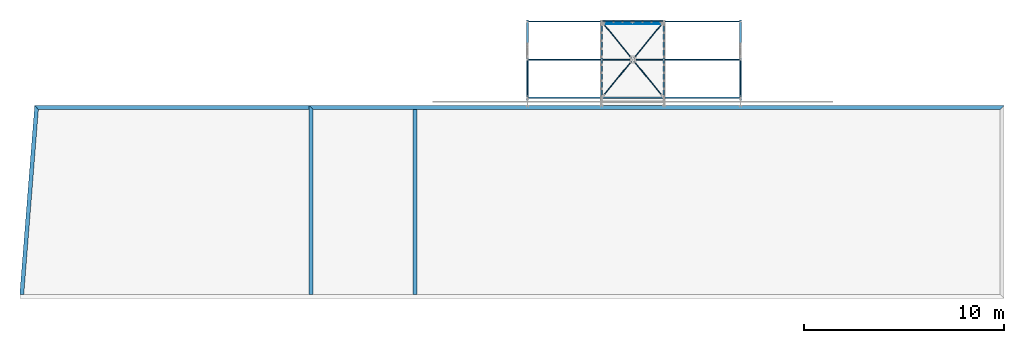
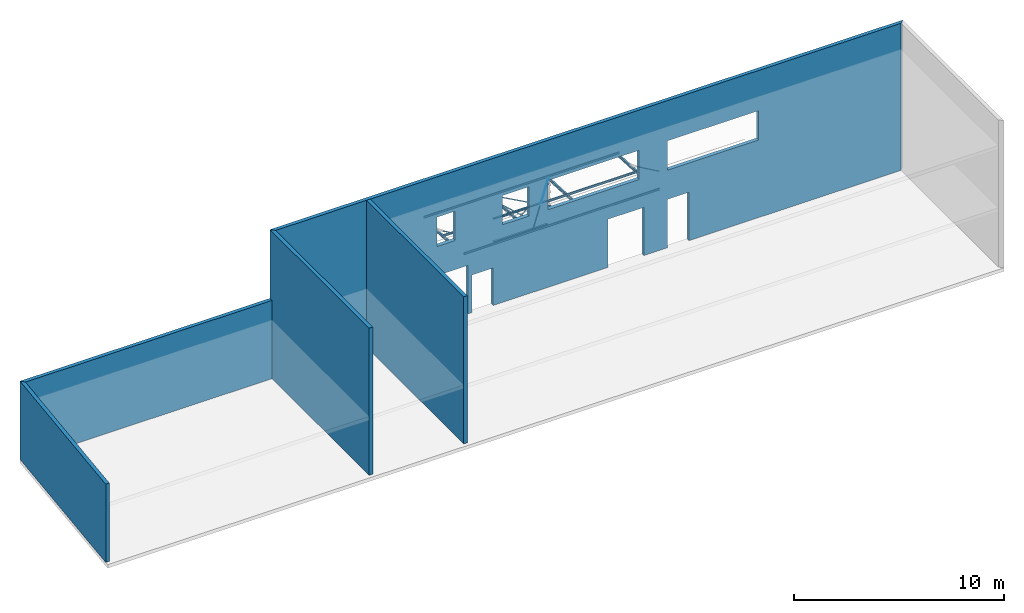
# One storey, part 2 of 10: 18 beams, 4 members, 22 elements without a shape of their own.
"""IFC2X3 building model written with IfcOpenShell, lengths in millimetres."""

import ifcopenshell
import ifcopenshell.guid

model = None  # the IFC model being written
_history = None  # IfcOwnerHistory: only IFC2X3 demands one
_inside = {}  # id of a spatial element -> (the spatial element, [elements in it])
_under = {}  # id of a project, library or spatial element -> (it, [spatial elements below it])
_declared = {}  # id of a project -> (the project, [libraries it declares])
_typed = {}  # id of a type object -> (the type object, [elements of that type])
_made_of = {}  # id of a material, layer set ... -> (it, [elements and type objects made of it])


def new_model(schema):
    """Start an empty IFC model of exactly this schema.

    Asked for "IFC4X3", IfcOpenShell would pick the latest addendum, in which some entities
    have other attributes; the version numbers below select the first issue.
    IFC2X3 requires an IfcOwnerHistory on every rooted entity: one is made here for all.
    """
    global model, _history
    if schema == "IFC4X3":
        model = ifcopenshell.file(schema_version=(4, 3, 0, 0))
    else:
        model = ifcopenshell.file(schema=schema)
    _inside.clear()
    _under.clear()
    _declared.clear()
    _typed.clear()
    _made_of.clear()
    _history = None
    if model.schema == "IFC2X3":
        org = make("IfcOrganization", Name="unknown")
        user = make(
            "IfcPersonAndOrganization",
            ThePerson=make("IfcPerson", FamilyName="unknown"),
            TheOrganization=org,
        )
        app = make(
            "IfcApplication",
            ApplicationDeveloper=org,
            Version="unknown",
            ApplicationFullName="unknown",
            ApplicationIdentifier="unknown",
        )
        _history = make(
            "IfcOwnerHistory",
            OwningUser=user,
            OwningApplication=app,
            ChangeAction="ADDED",
            CreationDate=0,
        )
    return model


def make(cls, **values):
    """One entity of the class cls with the attributes given. An attribute that is None is left unset."""
    return model.create_entity(
        cls, **{name: value for name, value in values.items() if value is not None}
    )


def rooted(cls, **values):
    """An entity with a GlobalId (a new one), such as an element, a storey or a relation."""
    return make(cls, GlobalId=ifcopenshell.guid.new(), OwnerHistory=_history, **values)


def si_unit(unit_type, name, prefix=None):
    """IfcSIUnit, for example si_unit("LENGTHUNIT", "METRE", prefix="MILLI")."""
    return make("IfcSIUnit", UnitType=unit_type, Prefix=prefix, Name=name)


def assignment(units):
    """IfcUnitAssignment: the units of a project."""
    return None if units is None else make("IfcUnitAssignment", Units=units)


def point(xyz):
    """IfcCartesianPoint."""
    return None if xyz is None else make("IfcCartesianPoint", Coordinates=xyz)


def direction(xyz):
    """IfcDirection."""
    return None if xyz is None else make("IfcDirection", DirectionRatios=xyz)


def frame(location, z_axis=None, x_axis=None):
    """IfcAxis2Placement3D, a coordinate frame: its origin and axes. An axis left out is left unset."""
    return make(
        "IfcAxis2Placement3D",
        Location=point(location),
        Axis=direction(z_axis),
        RefDirection=direction(x_axis),
    )


def frame_2d(location, x_axis=None):
    """IfcAxis2Placement2D, a coordinate frame in the plane: its origin and x axis."""
    return make(
        "IfcAxis2Placement2D", Location=point(location), RefDirection=direction(x_axis)
    )


def origin_with_axes():
    """The frame at (0, 0, 0) with the z axis (0, 0, 1) and the x axis (1, 0, 0) written out."""
    return frame((0.0, 0.0, 0.0), z_axis=(0.0, 0.0, 1.0), x_axis=(1.0, 0.0, 0.0))


def origin_2d_with_axis():
    """The frame at (0, 0) in the plane with the x axis (1, 0) written out."""
    return frame_2d((0.0, 0.0), x_axis=(1.0, 0.0))


def place(relative_to, where):
    """IfcLocalPlacement: puts the frame where relative to a parent placement (None: the world)."""
    return make(
        "IfcLocalPlacement", PlacementRelTo=relative_to, RelativePlacement=where
    )


def context(
    kind, dimensions, precision=None, world=None, true_north=None, identifier=None
):
    """IfcGeometricRepresentationContext, for example the 3D "Model" context."""
    return make(
        "IfcGeometricRepresentationContext",
        ContextIdentifier=identifier,
        ContextType=kind,
        CoordinateSpaceDimension=dimensions,
        Precision=precision,
        WorldCoordinateSystem=world,
        TrueNorth=true_north,
    )


def subcontext(parent, identifier, kind, view, scale=None):
    """IfcGeometricRepresentationSubContext, for example "Body" below "Model"."""
    return make(
        "IfcGeometricRepresentationSubContext",
        ContextIdentifier=identifier,
        ContextType=kind,
        ParentContext=parent,
        TargetScale=scale,
        TargetView=view,
    )


def project(units=None, contexts=None):
    """IfcProject with its units and contexts."""
    return rooted(
        "IfcProject",
        Name="project",
        RepresentationContexts=contexts,
        UnitsInContext=assignment(units),
    )


def spatial(cls, under=None, at=None, **own):
    """A site, building, storey or space (cls), placed at a placement, below another one or the project."""
    s = rooted(cls, ObjectPlacement=at, **own)
    if under is not None:
        _under.setdefault(under.id(), (under, []))[1].append(s)
    return s


def polyline(points):
    """IfcPolyline through the points."""
    return make("IfcPolyline", Points=[point(p) for p in points])


def circle_curve(where, radius):
    """IfcCircle in the frame where."""
    return make("IfcCircle", Position=where, Radius=radius)


def parameter(value):
    """IfcParameterValue: where a trimmed curve begins or ends, as a parameter of its basis curve."""
    return model.create_entity("IfcParameterValue", value)


def trimmed(basis, trim1, trim2, sense, master):
    """IfcTrimmedCurve: the piece of a basis curve between two trims."""
    return make(
        "IfcTrimmedCurve",
        BasisCurve=basis,
        Trim1=trim1,
        Trim2=trim2,
        SenseAgreement=sense,
        MasterRepresentation=master,
    )


def segment(curve, same_sense, transition):
    """IfcCompositeCurveSegment."""
    return make(
        "IfcCompositeCurveSegment",
        Transition=transition,
        SameSense=same_sense,
        ParentCurve=curve,
    )


def composite_curve(segments, self_intersect=None):
    """IfcCompositeCurve: segments joined end to end."""
    return make("IfcCompositeCurve", Segments=segments, SelfIntersect=self_intersect)


def profile(cls, at=None, kind="AREA", **sizes):
    """A parametric profile (cls). Its sizes go by their IFC names, for example OverallWidth=200.0."""
    return make(cls, ProfileType=kind, Position=at, **sizes)


def rectangle(**sizes):
    """IfcRectangleProfileDef."""
    return profile("IfcRectangleProfileDef", **sizes)


def hollow_circle(**sizes):
    """IfcCircleHollowProfileDef."""
    return profile("IfcCircleHollowProfileDef", **sizes)


def i_section(**sizes):
    """IfcIShapeProfileDef."""
    return profile("IfcIShapeProfileDef", **sizes)


def l_section(**sizes):
    """IfcLShapeProfileDef."""
    return profile("IfcLShapeProfileDef", **sizes)


def u_section(**sizes):
    """IfcUShapeProfileDef."""
    return profile("IfcUShapeProfileDef", **sizes)


def outline(outer, holes=None, kind="AREA"):
    """IfcArbitraryClosedProfileDef: a profile drawn as a closed curve; with holes, ...WithVoids."""
    if holes is None:
        return make("IfcArbitraryClosedProfileDef", ProfileType=kind, OuterCurve=outer)
    return make(
        "IfcArbitraryProfileDefWithVoids",
        ProfileType=kind,
        OuterCurve=outer,
        InnerCurves=holes,
    )


def extrude(swept, where, along, depth):
    """IfcExtrudedAreaSolid: the profile swept, set in the frame where, extruded along a direction by depth."""
    return make(
        "IfcExtrudedAreaSolid",
        SweptArea=swept,
        Position=where,
        ExtrudedDirection=direction(along),
        Depth=depth,
    )


def boolean(op, a, b):
    """IfcBooleanResult of two solids."""
    return make("IfcBooleanResult", Operator=op, FirstOperand=a, SecondOperand=b)


def clip(a, b, op="DIFFERENCE"):
    """IfcBooleanClippingResult: the solid a cut by the half space b."""
    return make(
        "IfcBooleanClippingResult", Operator=op, FirstOperand=a, SecondOperand=b
    )


def halfspace(plane, agree):
    """IfcHalfSpaceSolid: all space on one side of the plane z = 0 of the frame plane."""
    return make(
        "IfcHalfSpaceSolid",
        BaseSurface=make("IfcPlane", Position=plane),
        AgreementFlag=agree,
    )


def shape(context_of_items, identifier, shape_type, items):
    """IfcShapeRepresentation: the items that make up one representation, for example the "Body"."""
    return make(
        "IfcShapeRepresentation",
        ContextOfItems=context_of_items,
        RepresentationIdentifier=identifier,
        RepresentationType=shape_type,
        Items=items,
    )


def material(Name=None, Category=None):
    """IfcMaterial."""
    return make("IfcMaterial", Name=Name, Category=Category)


def made_of(thing, what):
    """Note that an element or type object is made of a material, layer set ...; save() writes the relation."""
    if what is not None:
        _made_of.setdefault(what.id(), (what, []))[1].append(thing)
    return thing


def type_object(cls, material=None, **own):
    """A type object (cls), such as IfcWallType, which elements share."""
    return made_of(rooted(cls, **own), material)


def element(
    cls,
    number,
    at=None,
    inside=None,
    cuts=None,
    type_object=None,
    material=None,
    context=None,
    identifier="Body",
    shape_type=None,
    held_by="IfcProductDefinitionShape",
    body=None,
    shapes=None,
    **own,
):
    """One element of the class cls, such as IfcWall. Its Tag is "e" and its number.

    at: its placement. inside: the storey or other place that contains it. cuts: it is an
    opening in that element (IfcRelVoidsElement). A single representation is given by context,
    identifier, shape_type and body (its items); several are given by shapes. held_by: the class
    of the entity that holds the representations. save() writes the other relations.
    """
    e = rooted(cls, Tag="e%d" % number, ObjectPlacement=at, **own)
    if body is not None:
        shapes = [shape(context, identifier, shape_type, body)]
    if shapes is not None:
        e.Representation = make(held_by, Representations=shapes)
    if inside is not None:
        _inside.setdefault(inside.id(), (inside, []))[1].append(e)
    if cuts is not None:
        rooted(
            "IfcRelVoidsElement", RelatingBuildingElement=cuts, RelatedOpeningElement=e
        )
    if type_object is not None:
        _typed.setdefault(type_object.id(), (type_object, []))[1].append(e)
    return made_of(e, material)


def aggregate(whole, parts):
    """IfcRelAggregates: a whole, such as a stair, and the parts it consists of."""
    return rooted("IfcRelAggregates", RelatingObject=whole, RelatedObjects=parts)


def save(model, path):
    """Write the relations noted so far, then the file.

    IfcRelAggregates (storeys below a building ...), IfcRelContainedInSpatialStructure (elements
    in a storey), IfcRelDefinesByType, IfcRelAssociatesMaterial and IfcRelDeclares: one each for
    every whole, place, type object, material and project.
    """
    for whole, parts in _under.values():
        aggregate(whole, parts)
    for where, things in _inside.values():
        rooted(
            "IfcRelContainedInSpatialStructure",
            RelatedElements=things,
            RelatingStructure=where,
        )
    for kind, things in _typed.values():
        rooted("IfcRelDefinesByType", RelatedObjects=things, RelatingType=kind)
    for what, things in _made_of.values():
        rooted("IfcRelAssociatesMaterial", RelatedObjects=things, RelatingMaterial=what)
    for by, libraries in _declared.values():
        rooted("IfcRelDeclares", RelatingContext=by, RelatedDefinitions=libraries)
    model.write(path)


model = new_model("IFC2X3")

# Units and contexts
model_context = context("Model", 3, precision=1e-05, world=origin_with_axes())
body_context = subcontext(model_context, "Body", "Model", "MODEL_VIEW")
ifc_project = project(units=[si_unit("LENGTHUNIT", "METRE", prefix="MILLI"), si_unit("AREAUNIT", "SQUARE_METRE"), si_unit("VOLUMEUNIT", "CUBIC_METRE"), si_unit("MASSUNIT", "GRAM", prefix="KILO"), si_unit("TIMEUNIT", "SECOND"), si_unit("PLANEANGLEUNIT", "RADIAN"), si_unit("SOLIDANGLEUNIT", "STERADIAN"), si_unit("THERMODYNAMICTEMPERATUREUNIT", "DEGREE_CELSIUS"), si_unit("LUMINOUSINTENSITYUNIT", "LUMEN")], contexts=[model_context])

# Site, building, storey
site_placement = place(None, origin_with_axes())
site = spatial("IfcSite", under=ifc_project, at=site_placement, Name="Undefined", CompositionType="ELEMENT")
building_placement = place(site_placement, origin_with_axes())
building = spatial("IfcBuilding", under=site, at=building_placement, Name="Undefined", CompositionType="ELEMENT")
storey_placement = place(building_placement, origin_with_axes())
storey = spatial("IfcBuildingStorey", under=building, at=storey_placement, Name="Undefined", CompositionType="ELEMENT", Elevation=0.0)

# Assembly, beam
assembly_1_placement = place(storey_placement, origin_with_axes())
assembly_1 = element("IfcElementAssembly", 1, at=assembly_1_placement, inside=storey, AssemblyPlace="NOTDEFINED", PredefinedType="NOTDEFINED")
ifc_material_1 = material(Name="Undefined/S235-E24")
beam_type_1 = type_object("IfcBeamType", Name="L40*4", PredefinedType="NOTDEFINED")
beam_1_placement = place(assembly_1_placement, frame((30451.4469799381, 27335.0746857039, 2960.81333331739), z_axis=(0.776487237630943, -0.629270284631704, 0.0329617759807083), x_axis=(-0.630132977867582, -0.775424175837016, 0.0406174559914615)))
beam_1 = element("IfcBeam", 2, at=beam_1_placement, type_object=beam_type_1, material=ifc_material_1, Name="STABILITE CVT", ObjectType="L40*4", context=body_context, shape_type="Clipping", body=[
    clip(clip(extrude(l_section(Depth=40.0, Width=40.0, Thickness=4.0, FilletRadius=6.0, EdgeRadius=3.0, at=origin_2d_with_axis()), frame((2362.85080746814, -9.09494701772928e-13, -1.10316738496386e-12), z_axis=(-1.0, 0.0, 0.0), x_axis=(-8.92000021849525e-07, -0.999999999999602, 0.0)), (0.0, 0.0, 1.0), 2298.17), halfspace(frame((2320.08744063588, 182.999996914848, -19.9999998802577), z_axis=(1.0, 0.0, 0.0), x_axis=(-8.92000021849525e-07, -0.999999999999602, 0.0)), False)), halfspace(frame((107.441568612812, 182.999997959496, -19.9999998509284), z_axis=(1.0, 0.0, 0.0), x_axis=(-8.92000021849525e-07, -0.999999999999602, 0.0)), True)),
])
aggregate(assembly_1, [beam_1])

assembly_2_placement = place(storey_placement, origin_with_axes())
assembly_2 = element("IfcElementAssembly", 3, at=assembly_2_placement, inside=storey, AssemblyPlace="NOTDEFINED", PredefinedType="NOTDEFINED")
beam_2_placement = place(assembly_2_placement, frame((30454.5529285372, 27335.0746863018, 2960.81333329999), z_axis=(-3.30331196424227e-10, 0.0523092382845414, 0.998630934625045), x_axis=(0.630132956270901, -0.775424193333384, 0.0406174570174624)))
beam_2 = element("IfcBeam", 4, at=beam_2_placement, type_object=beam_type_1, material=ifc_material_1, Name="STABILITE CVT", ObjectType="L40*4", context=body_context, shape_type="Clipping", body=[
    clip(clip(extrude(l_section(Depth=40.0, Width=40.0, Thickness=4.0, FilletRadius=6.0, EdgeRadius=3.0, at=origin_2d_with_axis()), frame((2362.85080746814, -9.09494701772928e-13, -1.10316738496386e-12), z_axis=(-1.0, 0.0, 0.0), x_axis=(-8.92000021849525e-07, -0.999999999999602, 0.0)), (0.0, 0.0, 1.0), 2298.17), halfspace(frame((2320.08744489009, 19.9999999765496, -182.999998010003), z_axis=(-1.0, 0.0, 0.0), x_axis=(0.0, 0.0, 1.0)), True)), halfspace(frame((107.441569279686, 19.9999999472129, -182.999998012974), z_axis=(-1.0, 0.0, 0.0), x_axis=(0.0, 0.0, 1.0)), False)),
])
aggregate(assembly_2, [beam_2])

assembly_3_placement = place(storey_placement, origin_with_axes())
assembly_3 = element("IfcElementAssembly", 5, at=assembly_3_placement, inside=storey, AssemblyPlace="NOTDEFINED", PredefinedType="NOTDEFINED")
beam_3_placement = place(assembly_3_placement, frame((28901.4469646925, 29239.9446364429, 2861.03443346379), z_axis=(0.776487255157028, 0.629270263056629, -0.0329617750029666), x_axis=(0.630132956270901, -0.775424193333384, 0.0406174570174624)))
beam_3 = element("IfcBeam", 6, at=beam_3_placement, type_object=beam_type_1, material=ifc_material_1, Name="STABILITE CVT", ObjectType="L40*4", context=body_context, shape_type="Clipping", body=[
    clip(clip(extrude(l_section(Depth=40.0, Width=40.0, Thickness=4.0, FilletRadius=6.0, EdgeRadius=3.0, at=origin_2d_with_axis()), frame((2393.69387448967, 0.0, 2.42396172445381e-13), z_axis=(-1.0, 0.0, 0.0), x_axis=(-8.92000021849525e-07, -0.999999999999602, 0.0)), (0.0, 0.0, 1.0), 2295.32), halfspace(frame((2352.35665650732, 182.999998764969, -20.0000000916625), z_axis=(1.0, 0.0, 0.0), x_axis=(-8.92000021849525e-07, -0.999999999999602, 0.0)), False)), halfspace(frame((139.710817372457, 182.999998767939, -20.0000001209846), z_axis=(1.0, 0.0, 0.0), x_axis=(-8.92000021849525e-07, -0.999999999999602, 0.0)), True)),
])
aggregate(assembly_3, [beam_3])

assembly_4_placement = place(storey_placement, origin_with_axes())
assembly_4 = element("IfcElementAssembly", 7, at=assembly_4_placement, inside=storey, AssemblyPlace="NOTDEFINED", PredefinedType="NOTDEFINED")
beam_4_placement = place(assembly_4_placement, frame((32004.5529154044, 29239.9446581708, 2861.03443352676), z_axis=(-3.30331196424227e-10, 0.0523092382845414, 0.998630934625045), x_axis=(-0.630132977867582, -0.775424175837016, 0.0406174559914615)))
beam_4 = element("IfcBeam", 8, at=beam_4_placement, type_object=beam_type_1, material=ifc_material_1, Name="STABILITE CVT", ObjectType="L40*4", context=body_context, shape_type="Clipping", body=[
    clip(clip(extrude(l_section(Depth=40.0, Width=40.0, Thickness=4.0, FilletRadius=6.0, EdgeRadius=3.0, at=origin_2d_with_axis()), frame((2393.69387448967, 0.0, 2.42396172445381e-13), z_axis=(-1.0, 0.0, 0.0), x_axis=(-8.92000021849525e-07, -0.999999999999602, 0.0)), (0.0, 0.0, 1.0), 2295.32), halfspace(frame((2352.35665617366, 20.0000000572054, -182.999998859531), z_axis=(-1.0, 0.0, 0.0), x_axis=(0.0, 0.0, 1.0)), True)), halfspace(frame((139.710821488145, 20.0000000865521, -182.999999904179), z_axis=(-1.0, 0.0, 0.0), x_axis=(0.0, 0.0, 1.0)), False)),
])
aggregate(assembly_4, [beam_4])

# Assembly, member
assembly_5_placement = place(storey_placement, origin_with_axes())
assembly_5 = element("IfcElementAssembly", 9, at=assembly_5_placement, inside=storey, AssemblyPlace="NOTDEFINED", PredefinedType="NOTDEFINED")
member_type_1 = type_object("IfcMemberType", Name="TUBE-60.3*3.2", PredefinedType="NOTDEFINED")
member_1_placement = place(assembly_5_placement, frame((25175.0000296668, 25040.0000675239, 4330.0), z_axis=(1.0, 0.0, 0.0), x_axis=(0.0, 0.902342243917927, -0.431020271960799)))
member_1 = element("IfcMember", 10, at=member_1_placement, type_object=member_type_1, material=ifc_material_1, Name="BUTON", ObjectType="TUBE-60.3*3.2", context=body_context, shape_type="CSG", body=[
    boolean("DIFFERENCE", boolean("DIFFERENCE", boolean("DIFFERENCE", boolean("DIFFERENCE", extrude(hollow_circle(Radius=30.14999962, WallThickness=3.200000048, at=origin_2d_with_axis()), frame((3314.61716229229, 0.0, 0.0), z_axis=(-1.0, 0.0, 0.0), x_axis=(-8.92000021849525e-07, -0.999999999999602, 0.0)), (0.0, 0.0, 1.0), 3314.62), extrude(outline(composite_curve([segment(polyline([(0.0, 0.0), (80.00000000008, 8.00355337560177e-11), (80.0000000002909, 219.999999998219)]), True, "CONTINUOUS"), segment(trimmed(circle_curve(frame_2d((40.0000000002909, 219.999999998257), x_axis=(1.0, 0.0)), 40.0), [parameter(0.0)], [parameter(1.57079632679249)], True, "PARAMETER"), True, "CONTINUOUS"), segment(trimmed(circle_curve(frame_2d((40.0000000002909, 219.999999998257), x_axis=(0.0, 1.0)), 40.0), [parameter(0.0)], [parameter(1.57079632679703)], True, "PARAMETER"), True, "CONTINUOUS"), segment(polyline([(2.58576339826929e-10, 219.999999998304), (0.0, 0.0)]), True, "CONTINUOUS")], self_intersect=True)), frame((542.05606881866, 40.000004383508, 5.00000007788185), z_axis=(1.80000123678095e-08, 0.0, -1.0), x_axis=(-8.92000021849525e-07, -0.999999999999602, 0.0)), (0.0, 0.0, 1.0), 10.0)), extrude(outline(composite_curve([segment(polyline([(0.0, 0.0), (80.00000000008, 8.00355337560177e-11), (80.0000000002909, 219.999999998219)]), True, "CONTINUOUS"), segment(trimmed(circle_curve(frame_2d((40.0000000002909, 219.999999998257), x_axis=(1.0, 0.0)), 40.0), [parameter(0.0)], [parameter(1.57079632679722)], True, "PARAMETER"), True, "CONTINUOUS"), segment(trimmed(circle_curve(frame_2d((40.0000000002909, 219.999999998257), x_axis=(0.0, 1.0)), 40.0), [parameter(0.0)], [parameter(1.57079632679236)], True, "PARAMETER"), True, "CONTINUOUS"), segment(polyline([(2.58576339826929e-10, 219.999999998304), (0.0, 0.0)]), True, "CONTINUOUS")], self_intersect=True)), frame((2534.92452783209, 40.0000043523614, -5.00000035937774), z_axis=(0.0, 0.0, 1.0), x_axis=(-8.92000021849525e-07, -0.999999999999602, 0.0)), (0.0, 0.0, 1.0), 10.0)), halfspace(frame((422.056068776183, 30.14999962, -30.14999962), z_axis=(-1.0, 0.0, 0.0), x_axis=(0.0, 0.0, 1.0)), False)), halfspace(frame((2654.92452778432, -30.14999962, -30.14999962), z_axis=(1.0, 0.0, 0.0), x_axis=(0.0, 0.0, 1.0)), False)),
])
aggregate(assembly_5, [member_1])

assembly_6_placement = place(storey_placement, origin_with_axes())
assembly_6 = element("IfcElementAssembly", 11, at=assembly_6_placement, inside=storey, AssemblyPlace="NOTDEFINED", PredefinedType="NOTDEFINED")
member_2_placement = place(assembly_6_placement, frame((35852.9999703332, 25040.0000673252, 4330.0), z_axis=(-1.0, 0.0, 0.0), x_axis=(0.0, 0.902342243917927, -0.431020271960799)))
member_2 = element("IfcMember", 12, at=member_2_placement, type_object=member_type_1, material=ifc_material_1, Name="BUTON", ObjectType="TUBE-60.3*3.2", context=body_context, shape_type="CSG", body=[
    boolean("DIFFERENCE", boolean("DIFFERENCE", boolean("DIFFERENCE", boolean("DIFFERENCE", extrude(hollow_circle(Radius=30.14999962, WallThickness=3.200000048, at=origin_2d_with_axis()), frame((3314.61716229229, 0.0, 0.0), z_axis=(-1.0, 0.0, 0.0), x_axis=(-8.92000021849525e-07, -0.999999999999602, 0.0)), (0.0, 0.0, 1.0), 3314.62), extrude(outline(composite_curve([segment(polyline([(0.0, 0.0), (80.00000000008, 8.00355337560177e-11), (80.0000000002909, 219.999999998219)]), True, "CONTINUOUS"), segment(trimmed(circle_curve(frame_2d((40.0000000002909, 219.999999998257), x_axis=(1.0, 0.0)), 40.0), [parameter(0.0)], [parameter(1.57079632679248)], True, "PARAMETER"), True, "CONTINUOUS"), segment(trimmed(circle_curve(frame_2d((40.0000000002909, 219.999999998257), x_axis=(0.0, 1.0)), 40.0), [parameter(0.0)], [parameter(1.57079632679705)], True, "PARAMETER"), True, "CONTINUOUS"), segment(polyline([(2.58576339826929e-10, 219.999999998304), (0.0, 0.0)]), True, "CONTINUOUS")], self_intersect=True)), frame((542.056071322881, -39.9999999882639, -5.00000007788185), z_axis=(0.0, 0.0, 1.0), x_axis=(0.0, 1.0, 0.0)), (0.0, 0.0, 1.0), 10.0)), extrude(outline(composite_curve([segment(polyline([(0.0, 0.0), (80.00000000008, 8.00355337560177e-11), (80.0000000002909, 219.999999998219)]), True, "CONTINUOUS"), segment(trimmed(circle_curve(frame_2d((40.0000000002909, 219.999999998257), x_axis=(1.0, 0.0)), 40.0), [parameter(0.0)], [parameter(1.57079632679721)], True, "PARAMETER"), True, "CONTINUOUS"), segment(trimmed(circle_curve(frame_2d((40.0000000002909, 219.999999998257), x_axis=(0.0, 1.0)), 40.0), [parameter(0.0)], [parameter(1.57079632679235)], True, "PARAMETER"), True, "CONTINUOUS"), segment(polyline([(2.58576339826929e-10, 219.999999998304), (0.0, 0.0)]), True, "CONTINUOUS")], self_intersect=True)), frame((2534.92453033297, -39.9999999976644, 5.00000035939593), z_axis=(1.80000123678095e-08, 0.0, -1.0), x_axis=(0.0, 1.0, 0.0)), (0.0, 0.0, 1.0), 10.0)), halfspace(frame((422.056068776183, 30.14999962, -30.14999962), z_axis=(-1.0, 0.0, 0.0), x_axis=(0.0, 0.0, 1.0)), False)), halfspace(frame((2654.92452778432, -30.14999962, -30.14999962), z_axis=(1.0, 0.0, 0.0), x_axis=(0.0, 0.0, 1.0)), False)),
])
aggregate(assembly_6, [member_2])

# Assembly, beam
assembly_7_placement = place(storey_placement, origin_with_axes())
assembly_7 = element("IfcElementAssembly", 13, at=assembly_7_placement, inside=storey, Name="POUTRE", AssemblyPlace="NOTDEFINED", PredefinedType="REINFORCEMENT_UNIT")
ifc_material_2 = material(Name="CONCRETE/C25/30")
beam_type_2 = type_object("IfcBeamType", Name="8550*200", PredefinedType="NOTDEFINED")
beam_5_placement = place(assembly_7_placement, frame((19554.9999999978, 15589.9999107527, 4275.0), z_axis=(0.0, 0.0, 1.0), x_axis=(0.0, 1.0, 0.0)))
beam_5 = element("IfcBeam", 14, at=beam_5_placement, type_object=beam_type_2, material=ifc_material_2, Name="POUTRE", ObjectType="8550*200", context=body_context, shape_type="SweptSolid", body=[
    extrude(rectangle(XDim=200.0, YDim=8550.0, at=origin_2d_with_axis()), frame((9250.00007595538, 0.0, 0.0), z_axis=(-1.0, 0.0, 0.0), x_axis=(-8.92000021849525e-07, -0.999999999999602, 0.0)), (0.0, 0.0, 1.0), 9250.0),
])
aggregate(assembly_7, [beam_5])

assembly_8_placement = place(storey_placement, origin_with_axes())
assembly_8 = element("IfcElementAssembly", 15, at=assembly_8_placement, inside=storey, Name="POUTRE", AssemblyPlace="NOTDEFINED", PredefinedType="REINFORCEMENT_UNIT")
beam_6_placement = place(assembly_8_placement, frame((14354.9999999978, 15589.9999107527, 4275.0), z_axis=(0.0, 0.0, 1.0), x_axis=(0.0, 1.0, 0.0)))
beam_6 = element("IfcBeam", 16, at=beam_6_placement, type_object=beam_type_2, material=ifc_material_2, Name="POUTRE", ObjectType="8550*200", context=body_context, shape_type="Clipping", body=[
    clip(extrude(rectangle(XDim=200.0, YDim=8550.0, at=origin_2d_with_axis()), frame((9451.00008924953, 0.0, 0.0), z_axis=(-1.0, 0.0, 0.0), x_axis=(-8.92000021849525e-07, -0.999999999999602, 0.0)), (0.0, 0.0, 1.0), 9451.0), halfspace(frame((9450.00008924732, 99.9999999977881, -4275.0), z_axis=(-0.707106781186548, 0.707106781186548, 0.0), x_axis=(0.0, 0.0, 1.0)), True)),
])
aggregate(assembly_8, [beam_6])

assembly_9_placement = place(storey_placement, origin_with_axes())
assembly_9 = element("IfcElementAssembly", 17, at=assembly_9_placement, inside=storey, Name="POUTRE", AssemblyPlace="NOTDEFINED", PredefinedType="REINFORCEMENT_UNIT")
beam_7_placement = place(assembly_9_placement, frame((49032.9999999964, 24939.9999999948, 4275.0), z_axis=(0.0, 0.0, 1.0), x_axis=(-1.0, 0.0, 0.0)))
solid = boolean("DIFFERENCE", boolean("DIFFERENCE", boolean("DIFFERENCE", boolean("DIFFERENCE", boolean("DIFFERENCE", boolean("DIFFERENCE", boolean("DIFFERENCE", boolean("DIFFERENCE", extrude(rectangle(XDim=200.0, YDim=8550.0, at=origin_2d_with_axis()), frame((34879.9999999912, 0.0, 0.0), z_axis=(-1.0, 0.0, 0.0), x_axis=(-8.92000021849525e-07, -0.999999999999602, 0.0)), (0.0, 0.0, 1.0), 34982.0), extrude(outline(polyline([(0.0, 0.0), (1700.0, 3.09228198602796e-08), (1700.0, 1000.00000003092), (0.0, 1000.00000003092), (0.0, 0.0)])), frame((24712.9999993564, 103.000023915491, 1935.0), z_axis=(-8.92000021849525e-07, -0.999999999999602, 0.0), x_axis=(1.80000123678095e-08, 0.0, -1.0)), (0.0, 0.0, 1.0), 206.0)), extrude(outline(polyline([(0.0, 0.0), (1700.0, 3.09228198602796e-08), (1700.0, 1450.00000003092), (0.0, 1450.00000003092), (0.0, 0.0)])), frame((20657.9999993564, 103.000010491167, 1935.0), z_axis=(-8.92000021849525e-07, -0.999999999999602, 0.0), x_axis=(1.80000123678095e-08, 0.0, -1.0)), (0.0, 0.0, 1.0), 206.0)), extrude(outline(polyline([(0.0, 0.0), (1700.0, 3.09228198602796e-08), (1700.0, 5000.00000003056), (0.0, 5000.00000003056), (0.0, 0.0)])), frame((14593.9999993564, 102.999990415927, 1935.0), z_axis=(-8.92000021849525e-07, -0.999999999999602, 0.0), x_axis=(1.80000123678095e-08, 0.0, -1.0)), (0.0, 0.0, 1.0), 206.0)), extrude(outline(polyline([(0.0, 0.0), (1700.0, 3.09228198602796e-08), (1700.0, 5000.00000003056), (0.0, 5000.00000003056), (0.0, 0.0)])), frame((13029.9999999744, -103.00001476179, 1935.0), z_axis=(0.0, 1.0, 0.0), x_axis=(1.80000123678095e-08, 0.0, -1.0)), (0.0, 0.0, 1.0), 206.0)), extrude(outline(polyline([(0.0, 0.0), (1600.00000003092, 0.0), (1600.00000003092, 2815.0), (3.09228198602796e-08, 2815.0), (0.0, 0.0)])), frame((24007.9999999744, -102.999978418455, -1460.0), z_axis=(0.0, 1.0, 0.0), x_axis=(1.0, 0.0, 0.0)), (0.0, 0.0, 1.0), 206.0)), extrude(outline(polyline([(0.0, 0.0), (1170.00000003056, 0.0), (1170.00000003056, 2815.0), (3.09228198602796e-08, 2815.0), (0.0, 0.0)])), frame((11859.9999999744, -103.000018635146, -1460.0), z_axis=(0.0, 1.0, 0.0), x_axis=(1.0, 0.0, 0.0)), (0.0, 0.0, 1.0), 206.0)), extrude(outline(polyline([(0.0, 0.0), (1990.0, 0.0), (1990.0, 2800.0), (0.0, 2800.0), (0.0, 0.0)])), frame((14330.0000000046, -103.000113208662, -1475.0), z_axis=(0.0, 1.0, 0.0), x_axis=(1.0, 0.0, 0.0)), (0.0, 0.0, 1.0), 206.0)), extrude(outline(polyline([(0.0, 0.0), (1150.00000003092, 0.0), (1150.00000003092, 2180.0), (3.09228198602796e-08, 2180.0), (0.0, 0.0)])), frame((22622.9999999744, -102.999983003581, -2095.0), z_axis=(0.0, 1.0, 0.0), x_axis=(1.0, 0.0, 0.0)), (0.0, 0.0, 1.0), 206.0))
beam_7 = element("IfcBeam", 18, at=beam_7_placement, type_object=beam_type_2, material=ifc_material_2, Name="POUTRE", ObjectType="8550*200", context=body_context, shape_type="CSG", body=[
    boolean("DIFFERENCE", boolean("DIFFERENCE", solid, halfspace(frame((34777.9999999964, -100.00000000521, -4275.0), z_axis=(0.707106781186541, 0.707106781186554, 0.0), x_axis=(0.0, 0.0, 1.0)), False)), halfspace(frame((0.000287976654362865, -100.00000000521, -4275.0), z_axis=(0.707106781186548, -0.707106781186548, 0.0), x_axis=(0.0, 0.0, 1.0)), True)),
])
aggregate(assembly_9, [beam_7])

assembly_10_placement = place(storey_placement, origin_with_axes())
assembly_10 = element("IfcElementAssembly", 19, at=assembly_10_placement, inside=storey, Name="POUTRE", AssemblyPlace="NOTDEFINED", PredefinedType="REINFORCEMENT_UNIT")
beam_type_3 = type_object("IfcBeamType", Name="4550*200", PredefinedType="NOTDEFINED")
beam_8_placement = place(assembly_10_placement, frame((14255.0, 24939.9999999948, 2275.0), z_axis=(0.0, 0.0, 1.0), x_axis=(-1.0, 0.0, 0.0)))
beam_8 = element("IfcBeam", 20, at=beam_8_placement, type_object=beam_type_3, material=ifc_material_2, Name="POUTRE", ObjectType="4550*200", context=body_context, shape_type="Clipping", body=[
    clip(extrude(rectangle(XDim=200.0, YDim=4550.0, at=origin_2d_with_axis()), frame((13734.3312485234, 0.0, 0.0), z_axis=(-1.0, 0.0, 0.0), x_axis=(-8.92000021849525e-07, -0.999999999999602, 0.0)), (0.0, 0.0, 1.0), 13734.33), halfspace(frame((13548.592821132, 100.000000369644, -2275.0), z_axis=(-0.734439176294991, -0.67867451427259, 0.0), x_axis=(0.0, 0.0, 1.0)), True)),
])
aggregate(assembly_10, [beam_8])

assembly_11_placement = place(storey_placement, origin_with_axes())
assembly_11 = element("IfcElementAssembly", 21, at=assembly_11_placement, inside=storey, Name="POUTRE", AssemblyPlace="NOTDEFINED", PredefinedType="REINFORCEMENT_UNIT")
beam_9_placement = place(assembly_11_placement, frame((621.281853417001, 25032.1198194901, 2274.99999999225), z_axis=(0.0, 0.0, 1.0), x_axis=(-0.0788018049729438, -0.996890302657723, 0.0)))
beam_9 = element("IfcBeam", 22, at=beam_9_placement, type_object=beam_type_3, material=ifc_material_2, Name="POUTRE", ObjectType="4550*200", context=body_context, shape_type="Clipping", body=[
    clip(clip(clip(extrude(rectangle(XDim=200.0, YDim=4550.0, at=origin_2d_with_axis()), frame((9586.76964239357, 1.33043154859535e-13, 4.54747350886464e-13), z_axis=(-1.0, 0.0, 0.0), x_axis=(-8.92000021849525e-07, -0.999999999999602, 0.0)), (0.0, 0.0, 1.0), 9609.56), halfspace(frame((100.311939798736, -830.961129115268, -2275.0), z_axis=(0.0788018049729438, -0.996890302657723, 0.0), x_axis=(0.0, 0.0, 1.0)), False)), halfspace(frame((9478.06434405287, -82.1124981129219, -2274.99999999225), z_axis=(0.996890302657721, 0.0788018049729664, 0.0), x_axis=(0.0, 0.0, 1.0)), False)), halfspace(frame((184.814356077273, 100.000000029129, -2274.99999999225), z_axis=(-0.734439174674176, 0.678674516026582, 0.0), x_axis=(0.0, 0.0, 1.0)), False)),
])
aggregate(assembly_11, [beam_9])

# Assembly, member
assembly_12_placement = place(storey_placement, origin_with_axes())
assembly_12 = element("IfcElementAssembly", 23, at=assembly_12_placement, inside=storey, AssemblyPlace="NOTDEFINED", PredefinedType="NOTDEFINED")
member_type_2 = type_object("IfcMemberType", Name="L40*4", PredefinedType="NOTDEFINED")
member_3_placement = place(assembly_12_placement, frame((28901.6659183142, 29180.0000662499, 2623.50982973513), z_axis=(0.0, 1.0, 0.0), x_axis=(0.745084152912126, 0.0, -0.666970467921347)))
member_3 = element("IfcMember", 24, at=member_3_placement, type_object=member_type_2, material=ifc_material_1, Name="STABILTE", ObjectType="L40*4", context=body_context, shape_type="Clipping", body=[
    clip(clip(extrude(l_section(Depth=40.0, Width=40.0, Thickness=4.0, FilletRadius=6.0, EdgeRadius=3.0, at=origin_2d_with_axis()), frame((4160.60400395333, 0.0, -7.27595761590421e-12), z_axis=(-1.0, 0.0, 0.0), x_axis=(-8.92000021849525e-07, -0.999999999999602, 0.0)), (0.0, 0.0, 1.0), 4160.6), halfspace(frame((4072.67344886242, -20.0, -20.0000000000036), z_axis=(1.0, 0.0, 0.0), x_axis=(0.0, 0.0, 1.0)), False)), halfspace(frame((87.9306736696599, 20.0, -20.0000000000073), z_axis=(-1.0, 0.0, 0.0), x_axis=(0.0, 0.0, 1.0)), False)),
])
aggregate(assembly_12, [member_3])

assembly_13_placement = place(storey_placement, origin_with_axes())
assembly_13 = element("IfcElementAssembly", 25, at=assembly_13_placement, inside=storey, AssemblyPlace="NOTDEFINED", PredefinedType="NOTDEFINED")
member_4_placement = place(assembly_13_placement, frame((28904.3339113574, 29135.0000662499, -151.490168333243), z_axis=(-0.666970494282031, 0.0, 0.745084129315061), x_axis=(0.745084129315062, 0.0, 0.66697049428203)))
member_4 = element("IfcMember", 26, at=member_4_placement, type_object=member_type_2, material=ifc_material_1, Name="STABILTE", ObjectType="L40*4", context=body_context, shape_type="Clipping", body=[
    clip(clip(extrude(l_section(Depth=40.0, Width=40.0, Thickness=4.0, FilletRadius=6.0, EdgeRadius=3.0, at=origin_2d_with_axis()), frame((4160.60383853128, -1.72078541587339e-21, -2.30959908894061e-13), z_axis=(-1.0, 0.0, 0.0), x_axis=(-8.92000021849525e-07, -0.999999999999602, 0.0)), (0.0, 0.0, 1.0), 4160.6), halfspace(frame((87.9305276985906, 20.0, -20.0), z_axis=(-1.0, 0.0, 0.0), x_axis=(0.0, 0.0, 1.0)), False)), halfspace(frame((4072.67337888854, -20.0, -20.0), z_axis=(1.0, 0.0, 0.0), x_axis=(0.0, 0.0, 1.0)), False)),
])
aggregate(assembly_13, [member_4])

# Assembly, beam
assembly_14_placement = place(storey_placement, origin_with_axes())
assembly_14 = element("IfcElementAssembly", 27, at=assembly_14_placement, inside=storey, Name="LISSE", AssemblyPlace="NOTDEFINED", PredefinedType="NOTDEFINED")
beam_type_4 = type_object("IfcBeamType", Name="UPF-100*50*4", PredefinedType="NOTDEFINED")
beam_10_placement = place(assembly_14_placement, frame((31952.9999389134, 29270.0000892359, 1465.0), z_axis=(0.0, 1.0, 0.0), x_axis=(-1.0, 0.0, 0.0)))
beam_10 = element("IfcBeam", 28, at=beam_10_placement, type_object=beam_type_4, material=ifc_material_1, Name="LISSE", ObjectType="UPF-100*50*4", context=body_context, shape_type="SweptSolid", body=[
    extrude(u_section(Depth=100.0, FlangeWidth=50.0, WebThickness=4.0, FlangeThickness=4.0, at=origin_2d_with_axis()), frame((2999.99999999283, 0.0, 0.0), z_axis=(-1.0, 0.0, 0.0), x_axis=(-8.92000021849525e-07, -0.999999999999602, 0.0)), (0.0, 0.0, 1.0), 3000.0),
])
aggregate(assembly_14, [beam_10])

assembly_15_placement = place(storey_placement, origin_with_axes())
assembly_15 = element("IfcElementAssembly", 29, at=assembly_15_placement, inside=storey, Name="LISSE", AssemblyPlace="NOTDEFINED", PredefinedType="NOTDEFINED")
beam_11_placement = place(assembly_15_placement, frame((31952.9999389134, 29270.0000892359, 124.999999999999), z_axis=(0.0, 1.0, 0.0), x_axis=(-1.0, 0.0, 0.0)))
beam_11 = element("IfcBeam", 30, at=beam_11_placement, type_object=beam_type_4, material=ifc_material_1, Name="LISSE", ObjectType="UPF-100*50*4", context=body_context, shape_type="SweptSolid", body=[
    extrude(u_section(Depth=100.0, FlangeWidth=50.0, WebThickness=4.0, FlangeThickness=4.0, at=origin_2d_with_axis()), frame((2999.99999999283, 0.0, 0.0), z_axis=(-1.0, 0.0, 0.0), x_axis=(-8.92000021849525e-07, -0.999999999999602, 0.0)), (0.0, 0.0, 1.0), 3000.0),
])
aggregate(assembly_15, [beam_11])

assembly_16_placement = place(storey_placement, origin_with_axes())
assembly_16 = element("IfcElementAssembly", 31, at=assembly_16_placement, inside=storey, Name="TRAVERSE", AssemblyPlace="NOTDEFINED", PredefinedType="NOTDEFINED")
ifc_material_3 = material(Name="Undefined/S275-E28")
beam_type_5 = type_object("IfcBeamType", Name="IPE160", PredefinedType="NOTDEFINED")
beam_12_placement = place(assembly_16_placement, frame((25184.9999703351, 25285.8152378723, 2965.01428514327), z_axis=(-3.30331196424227e-10, 0.0523092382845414, 0.998630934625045), x_axis=(-6.99999093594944e-09, 0.998630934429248, -0.0523092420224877)))
beam_12 = element("IfcBeam", 32, at=beam_12_placement, type_object=beam_type_5, material=ifc_material_3, Name="TRAVERSE", ObjectType="IPE160", context=body_context, shape_type="Clipping", body=[
    clip(clip(extrude(i_section(OverallWidth=82.0, OverallDepth=160.0, WebThickness=5.0, FlangeThickness=7.400000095, FilletRadius=9.0, at=origin_2d_with_axis()), frame((4048.18022580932, -1.1706936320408e-20, 0.0), z_axis=(-1.0, 0.0, 0.0), x_axis=(-8.92000021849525e-07, -0.999999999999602, 0.0)), (0.0, 0.0, 1.0), 4052.45), halfspace(frame((4043.90593900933, -4.63187461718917e-07, -80.0000007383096), z_axis=(-0.998630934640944, 9.89046762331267e-10, -0.0523092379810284), x_axis=(-8.92000021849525e-07, -0.999999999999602, 0.0)), True)), halfspace(frame((4.69101107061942, -6.83940015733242e-09, -9.5556684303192), z_axis=(-0.998630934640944, 9.89046762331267e-10, -0.0523092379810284), x_axis=(-8.92000021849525e-07, -0.999999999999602, 0.0)), False)),
])
aggregate(assembly_16, [beam_12])

assembly_17_placement = place(storey_placement, origin_with_axes())
assembly_17 = element("IfcElementAssembly", 33, at=assembly_17_placement, inside=storey, Name="TRAVERSE", AssemblyPlace="NOTDEFINED", PredefinedType="NOTDEFINED")
beam_13_placement = place(assembly_17_placement, frame((35842.9999703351, 25285.8152607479, 2965.01428514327), z_axis=(-3.30331196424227e-10, 0.0523092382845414, 0.998630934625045), x_axis=(-6.99999093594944e-09, 0.998630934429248, -0.0523092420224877)))
beam_13 = element("IfcBeam", 34, at=beam_13_placement, type_object=beam_type_5, material=ifc_material_3, Name="TRAVERSE", ObjectType="IPE160", context=body_context, shape_type="Clipping", body=[
    clip(clip(extrude(i_section(OverallWidth=82.0, OverallDepth=160.0, WebThickness=5.0, FlangeThickness=7.400000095, FilletRadius=9.0, at=origin_2d_with_axis()), frame((4048.18022580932, -1.1706936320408e-20, 0.0), z_axis=(-1.0, 0.0, 0.0), x_axis=(-8.92000021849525e-07, -0.999999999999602, 0.0)), (0.0, 0.0, 1.0), 4052.45), halfspace(frame((4043.90593900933, -4.63187461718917e-07, -80.0000007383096), z_axis=(-0.998630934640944, 9.89046762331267e-10, -0.0523092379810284), x_axis=(-8.92000021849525e-07, -0.999999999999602, 0.0)), True)), halfspace(frame((4.69101107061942, -6.83940015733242e-09, -9.5556684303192), z_axis=(-0.998630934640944, 9.89046762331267e-10, -0.0523092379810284), x_axis=(-8.92000021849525e-07, -0.999999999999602, 0.0)), False)),
])
aggregate(assembly_17, [beam_13])

assembly_18_placement = place(storey_placement, origin_with_axes())
assembly_18 = element("IfcElementAssembly", 35, at=assembly_18_placement, inside=storey, Name="TRAVERSE", AssemblyPlace="NOTDEFINED", PredefinedType="NOTDEFINED")
beam_14_placement = place(assembly_18_placement, frame((32002.9999703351, 25285.8152609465, 2965.01428514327), z_axis=(-3.30331196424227e-10, 0.0523092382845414, 0.998630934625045), x_axis=(-6.99999093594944e-09, 0.998630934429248, -0.0523092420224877)))
beam_14 = element("IfcBeam", 36, at=beam_14_placement, type_object=beam_type_5, material=ifc_material_3, Name="TRAVERSE", ObjectType="IPE160", context=body_context, shape_type="Clipping", body=[
    clip(clip(extrude(i_section(OverallWidth=82.0, OverallDepth=160.0, WebThickness=5.0, FlangeThickness=7.400000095, FilletRadius=9.0, at=origin_2d_with_axis()), frame((4048.18022580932, -1.1706936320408e-20, 0.0), z_axis=(-1.0, 0.0, 0.0), x_axis=(-8.92000021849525e-07, -0.999999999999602, 0.0)), (0.0, 0.0, 1.0), 4052.45), halfspace(frame((4043.90593900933, -4.63187461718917e-07, -80.0000007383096), z_axis=(-0.998630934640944, 9.89046762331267e-10, -0.0523092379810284), x_axis=(-8.92000021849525e-07, -0.999999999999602, 0.0)), True)), halfspace(frame((4.69101107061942, -6.83940015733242e-09, -9.5556684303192), z_axis=(-0.998630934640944, 9.89046762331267e-10, -0.0523092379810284), x_axis=(-8.92000021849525e-07, -0.999999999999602, 0.0)), False)),
])
aggregate(assembly_18, [beam_14])

assembly_19_placement = place(storey_placement, origin_with_axes())
assembly_19 = element("IfcElementAssembly", 37, at=assembly_19_placement, inside=storey, Name="TRAVERSE", AssemblyPlace="NOTDEFINED", PredefinedType="NOTDEFINED")
beam_15_placement = place(assembly_19_placement, frame((28902.9999703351, 25285.8152378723, 2965.01428514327), z_axis=(-3.30331196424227e-10, 0.0523092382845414, 0.998630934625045), x_axis=(-6.99999093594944e-09, 0.998630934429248, -0.0523092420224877)))
beam_15 = element("IfcBeam", 38, at=beam_15_placement, type_object=beam_type_5, material=ifc_material_3, Name="TRAVERSE", ObjectType="IPE160", context=body_context, shape_type="Clipping", body=[
    clip(clip(extrude(i_section(OverallWidth=82.0, OverallDepth=160.0, WebThickness=5.0, FlangeThickness=7.400000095, FilletRadius=9.0, at=origin_2d_with_axis()), frame((4048.18022580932, -1.1706936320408e-20, 0.0), z_axis=(-1.0, 0.0, 0.0), x_axis=(-8.92000021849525e-07, -0.999999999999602, 0.0)), (0.0, 0.0, 1.0), 4052.45), halfspace(frame((4043.90593900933, -4.63187461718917e-07, -80.0000007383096), z_axis=(-0.998630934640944, 9.89046762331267e-10, -0.0523092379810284), x_axis=(-8.92000021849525e-07, -0.999999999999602, 0.0)), True)), halfspace(frame((4.69101107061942, -6.83940015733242e-09, -9.5556684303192), z_axis=(-0.998630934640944, 9.89046762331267e-10, -0.0523092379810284), x_axis=(-8.92000021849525e-07, -0.999999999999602, 0.0)), False)),
])
aggregate(assembly_19, [beam_15])

assembly_20_placement = place(storey_placement, origin_with_axes())
assembly_20 = element("IfcElementAssembly", 39, at=assembly_20_placement, inside=storey, AssemblyPlace="NOTDEFINED", PredefinedType="NOTDEFINED")
beam_type_6 = type_object("IfcBeamType", Name="IPE120", PredefinedType="NOTDEFINED")
beam_16_placement = place(assembly_20_placement, frame((25134.9999687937, 25428.3645350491, 3097.73934976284), z_axis=(-3.30331196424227e-10, 0.0523092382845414, 0.998630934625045), x_axis=(1.0, 0.0, 0.0)))
beam_16 = element("IfcBeam", 40, at=beam_16_placement, type_object=beam_type_6, material=ifc_material_3, Name="PANNE", ObjectType="IPE120", context=body_context, shape_type="SweptSolid", body=[
    extrude(i_section(OverallWidth=64.0, OverallDepth=120.0, WebThickness=4.400000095, FlangeThickness=6.300000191, FilletRadius=7.0, at=origin_2d_with_axis()), frame((10758.0000000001, -1.7797618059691e-20, -1.11235112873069e-21), z_axis=(-1.0, 0.0, 0.0), x_axis=(-8.92000021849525e-07, -0.999999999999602, 0.0)), (0.0, 0.0, 1.0), 10758.0),
])
aggregate(assembly_20, [beam_16])

assembly_21_placement = place(storey_placement, origin_with_axes())
assembly_21 = element("IfcElementAssembly", 41, at=assembly_21_placement, inside=storey, AssemblyPlace="NOTDEFINED", PredefinedType="NOTDEFINED")
beam_17_placement = place(assembly_21_placement, frame((25134.9999539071, 27335.7515630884, 2997.82860208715), z_axis=(-3.30331196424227e-10, 0.0523092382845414, 0.998630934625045), x_axis=(1.0, 0.0, 0.0)))
beam_17 = element("IfcBeam", 42, at=beam_17_placement, type_object=beam_type_6, material=ifc_material_3, Name="PANNE", ObjectType="IPE120", context=body_context, shape_type="SweptSolid", body=[
    extrude(i_section(OverallWidth=64.0, OverallDepth=120.0, WebThickness=4.400000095, FlangeThickness=6.300000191, FilletRadius=7.0, at=origin_2d_with_axis()), frame((10758.0000000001, -1.7797618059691e-20, -1.11235112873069e-21), z_axis=(-1.0, 0.0, 0.0), x_axis=(-8.92000021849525e-07, -0.999999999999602, 0.0)), (0.0, 0.0, 1.0), 10758.0),
])
aggregate(assembly_21, [beam_17])

assembly_22_placement = place(storey_placement, origin_with_axes())
assembly_22 = element("IfcElementAssembly", 43, at=assembly_22_placement, inside=storey, AssemblyPlace="NOTDEFINED", PredefinedType="NOTDEFINED")
beam_18_placement = place(assembly_22_placement, frame((25134.9999390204, 29243.1385911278, 2897.91785441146), z_axis=(-3.30331196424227e-10, 0.0523092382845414, 0.998630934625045), x_axis=(1.0, 0.0, 0.0)))
beam_18 = element("IfcBeam", 44, at=beam_18_placement, type_object=beam_type_6, material=ifc_material_3, Name="PANNE", ObjectType="IPE120", context=body_context, shape_type="SweptSolid", body=[
    extrude(i_section(OverallWidth=64.0, OverallDepth=120.0, WebThickness=4.400000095, FlangeThickness=6.300000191, FilletRadius=7.0, at=origin_2d_with_axis()), frame((10758.0000000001, -1.7797618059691e-20, -1.11235112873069e-21), z_axis=(-1.0, 0.0, 0.0), x_axis=(-8.92000021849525e-07, -0.999999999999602, 0.0)), (0.0, 0.0, 1.0), 10758.0),
])
aggregate(assembly_22, [beam_18])

save(model, "model.ifc")
